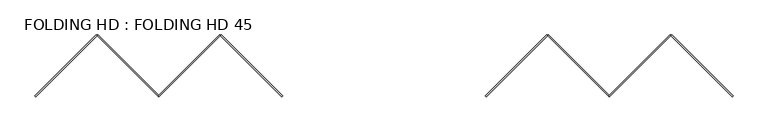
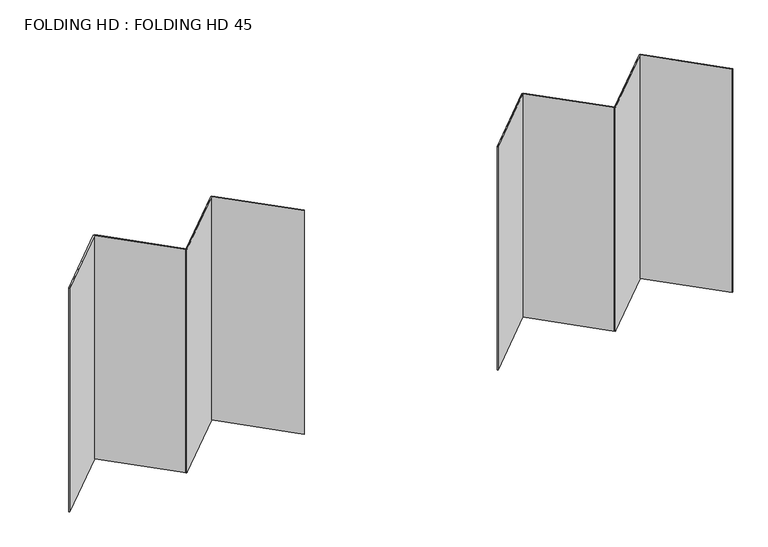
"""IFC4 building model written with IfcOpenShell, lengths in millimetres: plate geometry, FOLDING HD : FOLDING HD 45."""

import ifcopenshell
import ifcopenshell.guid

model = None  # the IFC model being written
_history = None  # IfcOwnerHistory: only IFC2X3 demands one
_inside = {}  # id of a spatial element -> (the spatial element, [elements in it])
_under = {}  # id of a project, library or spatial element -> (it, [spatial elements below it])
_declared = {}  # id of a project -> (the project, [libraries it declares])
_typed = {}  # id of a type object -> (the type object, [elements of that type])
_made_of = {}  # id of a material, layer set ... -> (it, [elements and type objects made of it])


def new_model(schema):
    """Start an empty IFC model of exactly this schema.

    Asked for "IFC4X3", IfcOpenShell would pick the latest addendum, in which some entities
    have other attributes; the version numbers below select the first issue.
    IFC2X3 requires an IfcOwnerHistory on every rooted entity: one is made here for all.
    """
    global model, _history
    if schema == "IFC4X3":
        model = ifcopenshell.file(schema_version=(4, 3, 0, 0))
    else:
        model = ifcopenshell.file(schema=schema)
    _inside.clear()
    _under.clear()
    _declared.clear()
    _typed.clear()
    _made_of.clear()
    _history = None
    if model.schema == "IFC2X3":
        org = make("IfcOrganization", Name="unknown")
        user = make(
            "IfcPersonAndOrganization",
            ThePerson=make("IfcPerson", FamilyName="unknown"),
            TheOrganization=org,
        )
        app = make(
            "IfcApplication",
            ApplicationDeveloper=org,
            Version="unknown",
            ApplicationFullName="unknown",
            ApplicationIdentifier="unknown",
        )
        _history = make(
            "IfcOwnerHistory",
            OwningUser=user,
            OwningApplication=app,
            ChangeAction="ADDED",
            CreationDate=0,
        )
    return model


def make(cls, **values):
    """One entity of the class cls with the attributes given. An attribute that is None is left unset."""
    return model.create_entity(
        cls, **{name: value for name, value in values.items() if value is not None}
    )


def rooted(cls, **values):
    """An entity with a GlobalId (a new one), such as an element, a storey or a relation."""
    return make(cls, GlobalId=ifcopenshell.guid.new(), OwnerHistory=_history, **values)


def si_unit(unit_type, name, prefix=None):
    """IfcSIUnit, for example si_unit("LENGTHUNIT", "METRE", prefix="MILLI")."""
    return make("IfcSIUnit", UnitType=unit_type, Prefix=prefix, Name=name)


def assignment(units):
    """IfcUnitAssignment: the units of a project."""
    return None if units is None else make("IfcUnitAssignment", Units=units)


def point(xyz):
    """IfcCartesianPoint."""
    return None if xyz is None else make("IfcCartesianPoint", Coordinates=xyz)


def direction(xyz):
    """IfcDirection."""
    return None if xyz is None else make("IfcDirection", DirectionRatios=xyz)


def frame(location, z_axis=None, x_axis=None):
    """IfcAxis2Placement3D, a coordinate frame: its origin and axes. An axis left out is left unset."""
    return make(
        "IfcAxis2Placement3D",
        Location=point(location),
        Axis=direction(z_axis),
        RefDirection=direction(x_axis),
    )


def origin():
    """The frame at (0, 0, 0) with its axes left unset."""
    return frame((0.0, 0.0, 0.0))


def origin_with_axes():
    """The frame at (0, 0, 0) with the z axis (0, 0, 1) and the x axis (1, 0, 0) written out."""
    return frame((0.0, 0.0, 0.0), z_axis=(0.0, 0.0, 1.0), x_axis=(1.0, 0.0, 0.0))


def place(relative_to, where):
    """IfcLocalPlacement: puts the frame where relative to a parent placement (None: the world)."""
    return make(
        "IfcLocalPlacement", PlacementRelTo=relative_to, RelativePlacement=where
    )


def context(
    kind, dimensions, precision=None, world=None, true_north=None, identifier=None
):
    """IfcGeometricRepresentationContext, for example the 3D "Model" context."""
    return make(
        "IfcGeometricRepresentationContext",
        ContextIdentifier=identifier,
        ContextType=kind,
        CoordinateSpaceDimension=dimensions,
        Precision=precision,
        WorldCoordinateSystem=world,
        TrueNorth=true_north,
    )


def project(units=None, contexts=None):
    """IfcProject with its units and contexts."""
    return rooted(
        "IfcProject",
        Name="project",
        RepresentationContexts=contexts,
        UnitsInContext=assignment(units),
    )


def spatial(cls, under=None, at=None, **own):
    """A site, building, storey or space (cls), placed at a placement, below another one or the project."""
    s = rooted(cls, ObjectPlacement=at, **own)
    if under is not None:
        _under.setdefault(under.id(), (under, []))[1].append(s)
    return s


def polyline(points):
    """IfcPolyline through the points."""
    return make("IfcPolyline", Points=[point(p) for p in points])


def outline(outer, holes=None, kind="AREA"):
    """IfcArbitraryClosedProfileDef: a profile drawn as a closed curve; with holes, ...WithVoids."""
    if holes is None:
        return make("IfcArbitraryClosedProfileDef", ProfileType=kind, OuterCurve=outer)
    return make(
        "IfcArbitraryProfileDefWithVoids",
        ProfileType=kind,
        OuterCurve=outer,
        InnerCurves=holes,
    )


def extrude(swept, where, along, depth):
    """IfcExtrudedAreaSolid: the profile swept, set in the frame where, extruded along a direction by depth."""
    return make(
        "IfcExtrudedAreaSolid",
        SweptArea=swept,
        Position=where,
        ExtrudedDirection=direction(along),
        Depth=depth,
    )


def shape(context_of_items, identifier, shape_type, items):
    """IfcShapeRepresentation: the items that make up one representation, for example the "Body"."""
    return make(
        "IfcShapeRepresentation",
        ContextOfItems=context_of_items,
        RepresentationIdentifier=identifier,
        RepresentationType=shape_type,
        Items=items,
    )


def source(mapping_origin, context_of_items, identifier, shape_type, items):
    """IfcRepresentationMap: a shape defined once, which mapped items show again and again."""
    return make(
        "IfcRepresentationMap",
        MappingOrigin=mapping_origin,
        MappedRepresentation=shape(context_of_items, identifier, shape_type, items),
    )


def transform(
    local_origin,
    x_axis=None,
    y_axis=None,
    z_axis=None,
    scale=None,
    scale2=None,
    scale3=None,
    uniform=True,
):
    """IfcCartesianTransformationOperator3D, or its non-uniform kind. x_axis, y_axis, z_axis: its Axis1, 2, 3."""
    if uniform:
        return make(
            "IfcCartesianTransformationOperator3D",
            Axis1=direction(x_axis),
            Axis2=direction(y_axis),
            LocalOrigin=point(local_origin),
            Scale=scale,
            Axis3=direction(z_axis),
        )
    return make(
        "IfcCartesianTransformationOperator3DnonUniform",
        Axis1=direction(x_axis),
        Axis2=direction(y_axis),
        LocalOrigin=point(local_origin),
        Scale=scale,
        Axis3=direction(z_axis),
        Scale2=scale2,
        Scale3=scale3,
    )


def mapped(mapping_source, mapping_target):
    """IfcMappedItem: shows the shape of a source again, moved by a transform."""
    return make(
        "IfcMappedItem", MappingSource=mapping_source, MappingTarget=mapping_target
    )


def made_of(thing, what):
    """Note that an element or type object is made of a material, layer set ...; save() writes the relation."""
    if what is not None:
        _made_of.setdefault(what.id(), (what, []))[1].append(thing)
    return thing


def element(
    cls,
    number,
    at=None,
    inside=None,
    cuts=None,
    type_object=None,
    material=None,
    context=None,
    identifier="Body",
    shape_type=None,
    held_by="IfcProductDefinitionShape",
    body=None,
    shapes=None,
    **own,
):
    """One element of the class cls, such as IfcWall. Its Tag is "e" and its number.

    at: its placement. inside: the storey or other place that contains it. cuts: it is an
    opening in that element (IfcRelVoidsElement). A single representation is given by context,
    identifier, shape_type and body (its items); several are given by shapes. held_by: the class
    of the entity that holds the representations. save() writes the other relations.
    """
    e = rooted(cls, Tag="e%d" % number, ObjectPlacement=at, **own)
    if body is not None:
        shapes = [shape(context, identifier, shape_type, body)]
    if shapes is not None:
        e.Representation = make(held_by, Representations=shapes)
    if inside is not None:
        _inside.setdefault(inside.id(), (inside, []))[1].append(e)
    if cuts is not None:
        rooted(
            "IfcRelVoidsElement", RelatingBuildingElement=cuts, RelatedOpeningElement=e
        )
    if type_object is not None:
        _typed.setdefault(type_object.id(), (type_object, []))[1].append(e)
    return made_of(e, material)


def aggregate(whole, parts):
    """IfcRelAggregates: a whole, such as a stair, and the parts it consists of."""
    return rooted("IfcRelAggregates", RelatingObject=whole, RelatedObjects=parts)


def save(model, path):
    """Write the relations noted so far, then the file.

    IfcRelAggregates (storeys below a building ...), IfcRelContainedInSpatialStructure (elements
    in a storey), IfcRelDefinesByType, IfcRelAssociatesMaterial and IfcRelDeclares: one each for
    every whole, place, type object, material and project.
    """
    for whole, parts in _under.values():
        aggregate(whole, parts)
    for where, things in _inside.values():
        rooted(
            "IfcRelContainedInSpatialStructure",
            RelatedElements=things,
            RelatingStructure=where,
        )
    for kind, things in _typed.values():
        rooted("IfcRelDefinesByType", RelatedObjects=things, RelatingType=kind)
    for what, things in _made_of.values():
        rooted("IfcRelAssociatesMaterial", RelatedObjects=things, RelatingMaterial=what)
    for by, libraries in _declared.values():
        rooted("IfcRelDeclares", RelatingContext=by, RelatedDefinitions=libraries)
    model.write(path)


def folding_hd_folding_hd_45_d1567fec(model_context):
    return source(origin(), model_context, "Body", "SweptSolid", [
        extrude(outline(polyline([(2963.6038969, 636.3961031), (2327.2077939, 0.0), (2320.1367261, 7.0710678), (2956.5328291, 643.4671709), (2963.6038969, 636.3961031)])), origin_with_axes(), (0.0, 0.0, 1.0), 2570.0),
        extrude(outline(polyline([(2963.6038969, 636.3961031), (2970.6749647, 643.4671709), (3607.0710678, 7.0710678), (3600.0, 0.0), (2963.6038969, 636.3961031)])), origin_with_axes(), (0.0, 0.0, 1.0), 2570.0),
        extrude(outline(polyline([(1690.8116908, 636.3961031), (1697.8827586, 643.4671709), (2334.2788617, 7.0710678), (2327.2077939, 0.0), (1690.8116908, 636.3961031)])), origin_with_axes(), (0.0, 0.0, 1.0), 2570.0),
        extrude(outline(polyline([(1690.8116908, 636.3961031), (1054.4155877, 0.0), (1047.3445199, 7.0710678), (1683.740623, 643.4671709), (1690.8116908, 636.3961031)])), origin_with_axes(), (0.0, 0.0, 1.0), 2570.0),
        extrude(outline(polyline([(-1690.8116908, 636.3961031), (-2327.2077939, 0.0), (-2334.2788617, 7.0710678), (-1697.8827586, 643.4671709), (-1690.8116908, 636.3961031)])), origin_with_axes(), (0.0, 0.0, 1.0), 2570.0),
        extrude(outline(polyline([(-1690.8116908, 636.3961031), (-1683.740623, 643.4671709), (-1047.3445199, 7.0710678), (-1054.4155877, 0.0), (-1690.8116908, 636.3961031)])), origin_with_axes(), (0.0, 0.0, 1.0), 2570.0),
        extrude(outline(polyline([(-2963.6038969, 636.3961031), (-2956.5328291, 643.4671709), (-2320.1367261, 7.0710678), (-2327.2077939, 0.0), (-2963.6038969, 636.3961031)])), origin_with_axes(), (0.0, 0.0, 1.0), 2570.0),
        extrude(outline(polyline([(-2963.6038969, 636.3961031), (-3600.0, 0.0), (-3607.0710678, 7.0710678), (-2970.6749647, 643.4671709), (-2963.6038969, 636.3961031)])), origin_with_axes(), (0.0, 0.0, 1.0), 2570.0),
    ])


if __name__ == "__main__":
    model = new_model("IFC4")
    model_context = context("Model", 3, world=origin())
    ifc_project = project(units=[si_unit("LENGTHUNIT", "METRE", prefix="MILLI")], contexts=[model_context])
    site = spatial("IfcSite", under=ifc_project)
    building = spatial("IfcBuilding", under=site)
    placement = place(None, origin())
    folding_hd_folding_hd_45_shape = folding_hd_folding_hd_45_d1567fec(model_context)
    element("IfcPlate", 1, ObjectType="FOLDING HD : FOLDING HD 45", at=placement, inside=building, context=model_context, shape_type="MappedRepresentation", body=[
        mapped(folding_hd_folding_hd_45_shape, transform((0.0, 0.0, 0.0), x_axis=(1.0, 0.0, 0.0), y_axis=(0.0, 1.0, 0.0), z_axis=(0.0, 0.0, 1.0))),
    ])
    save(model, "model.ifc")
